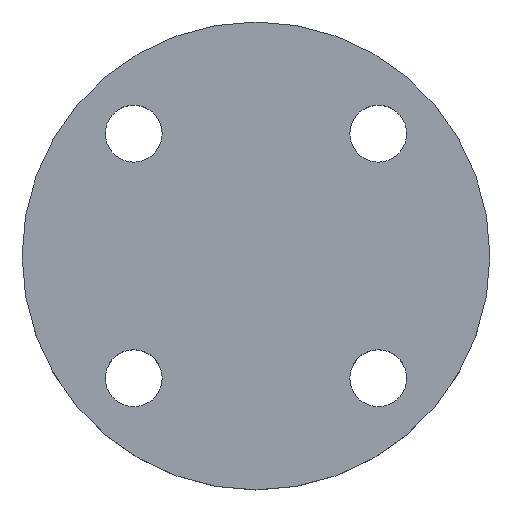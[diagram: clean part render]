
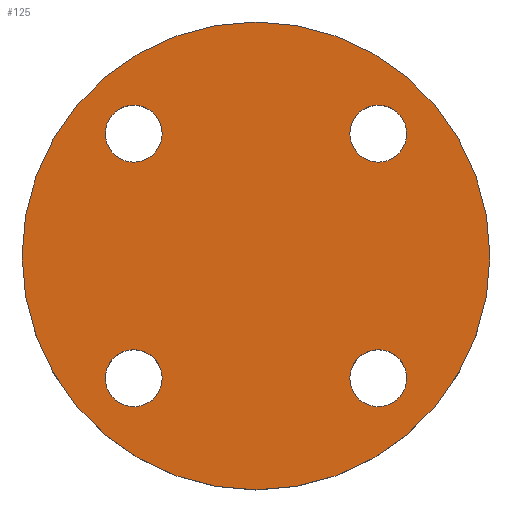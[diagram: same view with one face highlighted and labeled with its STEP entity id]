
A CAD part, top view. The second image highlights one B-rep face of the part: STEP entity #125.
In plain terms, the highlighted planar face has unit normal (0, 0, 1).
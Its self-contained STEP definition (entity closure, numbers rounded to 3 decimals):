
#1 = CIRCLE ( 'NONE', #11, 7. ) ;
#7 = CIRCLE ( 'NONE', #53, 7. ) ;
#10 = AXIS2_PLACEMENT_3D ( 'NONE', #124, #58, #57 ) ;
#11 = AXIS2_PLACEMENT_3D ( 'NONE', #141, #142, #143 ) ;
#15 = CIRCLE ( 'NONE', #601, 7. ) ;
#20 = CIRCLE ( 'NONE', #492, 57.5 ) ;
#24 = CIRCLE ( 'NONE', #86, 7. ) ;
#28 = AXIS2_PLACEMENT_3D ( 'NONE', #157, #69, #89 ) ;
#32 = AXIS2_PLACEMENT_3D ( 'NONE', #651, #653, #654 ) ;
#39 = AXIS2_PLACEMENT_3D ( 'NONE', #468, #470, #471 ) ;
#42 = CIRCLE ( 'NONE', #28, 7. ) ;
#53 = AXIS2_PLACEMENT_3D ( 'NONE', #442, #443, #444 ) ;
#57 = DIRECTION ( 'NONE',  ( -1., 0., 0. ) ) ;
#58 = DIRECTION ( 'NONE',  ( 0., 0., -1. ) ) ;
#69 = DIRECTION ( 'NONE',  ( 0., 0., -1. ) ) ;
#86 = AXIS2_PLACEMENT_3D ( 'NONE', #150, #158, #160 ) ;
#89 = DIRECTION ( 'NONE',  ( -1., 0., 0. ) ) ;
#96 = CIRCLE ( 'NONE', #32, 57.5 ) ;
#104 = CARTESIAN_POINT ( 'NONE',  ( 30.052, 30.052, 0. ) ) ;
#106 = AXIS2_PLACEMENT_3D ( 'NONE', #627, #628, #629 ) ;
#111 = EDGE_CURVE ( 'NONE', #381, #215, #7, .T. ) ;
#114 = DIRECTION ( 'NONE',  ( 0., 0., -1. ) ) ;
#119 = CIRCLE ( 'NONE', #10, 7. ) ;
#124 = CARTESIAN_POINT ( 'NONE',  ( -30.052, 30.052, 0. ) ) ;
#125 = ADVANCED_FACE ( 'NONE', ( #462, #463, #464, #465, #466 ), #467, .T. ) ;
#141 = CARTESIAN_POINT ( 'NONE',  ( -30.052, -30.052, 0. ) ) ;
#142 = DIRECTION ( 'NONE',  ( 0., 0., -1. ) ) ;
#143 = DIRECTION ( 'NONE',  ( -1., 0., 0. ) ) ;
#147 = CARTESIAN_POINT ( 'NONE',  ( 0., 0., 0. ) ) ;
#148 = DIRECTION ( 'NONE',  ( 0., 0., 1. ) ) ;
#149 = DIRECTION ( 'NONE',  ( 1., 0., 0. ) ) ;
#150 = CARTESIAN_POINT ( 'NONE',  ( 30.052, 30.052, 0. ) ) ;
#157 = CARTESIAN_POINT ( 'NONE',  ( 30.052, -30.052, 0. ) ) ;
#158 = DIRECTION ( 'NONE',  ( 0., 0., -1. ) ) ;
#160 = DIRECTION ( 'NONE',  ( -1., 0., 0. ) ) ;
#175 = EDGE_CURVE ( 'NONE', #396, #298, #15, .T. ) ;
#207 = AXIS2_PLACEMENT_3D ( 'NONE', #104, #114, #212 ) ;
#212 = DIRECTION ( 'NONE',  ( -1., 0., 0. ) ) ;
#215 = VERTEX_POINT ( 'NONE', #550 ) ;
#226 = VERTEX_POINT ( 'NONE', #558 ) ;
#256 = CIRCLE ( 'NONE', #207, 7. ) ;
#298 = VERTEX_POINT ( 'NONE', #592 ) ;
#299 = ORIENTED_EDGE ( 'NONE', *, *, #175, .T. ) ;
#300 = ORIENTED_EDGE ( 'NONE', *, *, #551, .T. ) ;
#301 = ORIENTED_EDGE ( 'NONE', *, *, #111, .T. ) ;
#302 = ORIENTED_EDGE ( 'NONE', *, *, #494, .T. ) ;
#303 = ORIENTED_EDGE ( 'NONE', *, *, #388, .T. ) ;
#304 = ORIENTED_EDGE ( 'NONE', *, *, #421, .T. ) ;
#305 = ORIENTED_EDGE ( 'NONE', *, *, #543, .T. ) ;
#306 = ORIENTED_EDGE ( 'NONE', *, *, #450, .T. ) ;
#307 = ORIENTED_EDGE ( 'NONE', *, *, #529, .T. ) ;
#308 = ORIENTED_EDGE ( 'NONE', *, *, #402, .T. ) ;
#371 = VERTEX_POINT ( 'NONE', #616 ) ;
#380 = EDGE_LOOP ( 'NONE', ( #299, #300 ) ) ;
#381 = VERTEX_POINT ( 'NONE', #622 ) ;
#382 = VERTEX_POINT ( 'NONE', #623 ) ;
#383 = EDGE_LOOP ( 'NONE', ( #303, #304 ) ) ;
#388 = EDGE_CURVE ( 'NONE', #371, #401, #523, .T. ) ;
#392 = VERTEX_POINT ( 'NONE', #645 ) ;
#395 = EDGE_LOOP ( 'NONE', ( #307, #308 ) ) ;
#396 = VERTEX_POINT ( 'NONE', #647 ) ;
#398 = EDGE_LOOP ( 'NONE', ( #301, #302 ) ) ;
#400 = EDGE_LOOP ( 'NONE', ( #305, #306 ) ) ;
#401 = VERTEX_POINT ( 'NONE', #650 ) ;
#402 = EDGE_CURVE ( 'NONE', #382, #404, #96, .T. ) ;
#404 = VERTEX_POINT ( 'NONE', #655 ) ;
#421 = EDGE_CURVE ( 'NONE', #401, #371, #119, .T. ) ;
#442 = CARTESIAN_POINT ( 'NONE',  ( -30.052, -30.052, 0. ) ) ;
#443 = DIRECTION ( 'NONE',  ( 0., 0., -1. ) ) ;
#444 = DIRECTION ( 'NONE',  ( -1., 0., 0. ) ) ;
#450 = EDGE_CURVE ( 'NONE', #226, #392, #256, .T. ) ;
#462 = FACE_BOUND ( 'NONE', #380, .T. ) ;
#463 = FACE_BOUND ( 'NONE', #398, .T. ) ;
#464 = FACE_BOUND ( 'NONE', #383, .T. ) ;
#465 = FACE_BOUND ( 'NONE', #400, .T. ) ;
#466 = FACE_OUTER_BOUND ( 'NONE', #395, .T. ) ;
#467 = PLANE ( 'NONE',  #39 ) ;
#468 = CARTESIAN_POINT ( 'NONE',  ( 0., 0., 0. ) ) ;
#470 = DIRECTION ( 'NONE',  ( 0., 0., 1. ) ) ;
#471 = DIRECTION ( 'NONE',  ( 1., 0., 0. ) ) ;
#492 = AXIS2_PLACEMENT_3D ( 'NONE', #147, #148, #149 ) ;
#494 = EDGE_CURVE ( 'NONE', #215, #381, #1, .T. ) ;
#497 = CARTESIAN_POINT ( 'NONE',  ( 30.052, -30.052, 0. ) ) ;
#498 = DIRECTION ( 'NONE',  ( 0., 0., -1. ) ) ;
#499 = DIRECTION ( 'NONE',  ( -1., 0., 0. ) ) ;
#523 = CIRCLE ( 'NONE', #106, 7. ) ;
#529 = EDGE_CURVE ( 'NONE', #404, #382, #20, .T. ) ;
#543 = EDGE_CURVE ( 'NONE', #392, #226, #24, .T. ) ;
#550 = CARTESIAN_POINT ( 'NONE',  ( -37.052, -30.052, 0. ) ) ;
#551 = EDGE_CURVE ( 'NONE', #298, #396, #42, .T. ) ;
#558 = CARTESIAN_POINT ( 'NONE',  ( 23.052, 30.052, 0. ) ) ;
#592 = CARTESIAN_POINT ( 'NONE',  ( 23.052, -30.052, 0. ) ) ;
#601 = AXIS2_PLACEMENT_3D ( 'NONE', #497, #498, #499 ) ;
#616 = CARTESIAN_POINT ( 'NONE',  ( -23.052, 30.052, 0. ) ) ;
#622 = CARTESIAN_POINT ( 'NONE',  ( -23.052, -30.052, 0. ) ) ;
#623 = CARTESIAN_POINT ( 'NONE',  ( -57.5, 0., 0. ) ) ;
#627 = CARTESIAN_POINT ( 'NONE',  ( -30.052, 30.052, 0. ) ) ;
#628 = DIRECTION ( 'NONE',  ( 0., 0., -1. ) ) ;
#629 = DIRECTION ( 'NONE',  ( -1., 0., 0. ) ) ;
#645 = CARTESIAN_POINT ( 'NONE',  ( 37.052, 30.052, 0. ) ) ;
#647 = CARTESIAN_POINT ( 'NONE',  ( 37.052, -30.052, 0. ) ) ;
#650 = CARTESIAN_POINT ( 'NONE',  ( -37.052, 30.052, 0. ) ) ;
#651 = CARTESIAN_POINT ( 'NONE',  ( 0., 0., 0. ) ) ;
#653 = DIRECTION ( 'NONE',  ( 0., 0., 1. ) ) ;
#654 = DIRECTION ( 'NONE',  ( 1., 0., 0. ) ) ;
#655 = CARTESIAN_POINT ( 'NONE',  ( 57.5, 0., 0. ) ) ;
